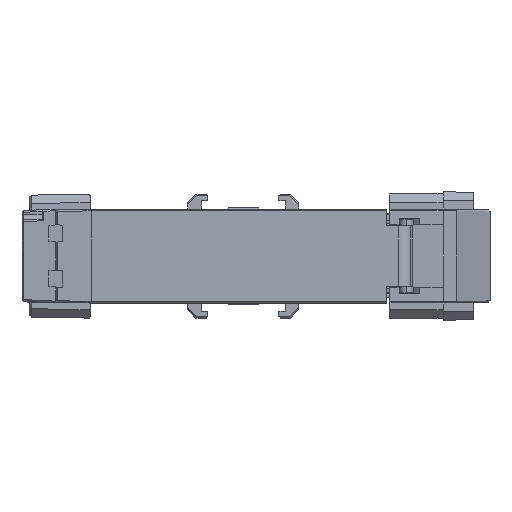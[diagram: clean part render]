
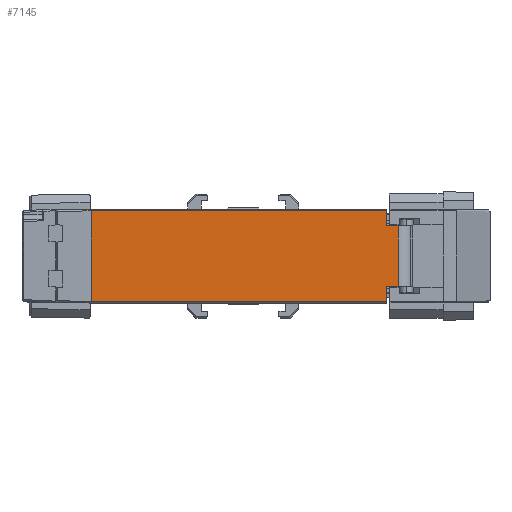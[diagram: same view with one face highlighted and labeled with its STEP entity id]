
A CAD part, left-side view. The second image highlights one B-rep face of the part: STEP entity #7145.
In plain terms, the highlighted planar face has unit normal (-1, 0, 0).
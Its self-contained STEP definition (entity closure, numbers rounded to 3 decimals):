
#4111 = AXIS2_PLACEMENT_3D ( 'NONE', #4958, #45110, #35448 ) ;
#4958 = CARTESIAN_POINT ( 'NONE',  ( -60., -1., 14. ) ) ;
#5102 = EDGE_CURVE ( 'NONE', #49876, #37263, #56243, .T. ) ;
#7072 = DIRECTION ( 'NONE',  ( 0., -1., 0. ) ) ;
#7145 = ADVANCED_FACE ( 'NONE', ( #49503 ), #53342, .F. ) ;
#7262 = CARTESIAN_POINT ( 'NONE',  ( -60., -1., 14. ) ) ;
#10318 = LINE ( 'NONE', #40554, #42674 ) ;
#10398 = CARTESIAN_POINT ( 'NONE',  ( -60., 87., -13.5 ) ) ;
#10403 = ORIENTED_EDGE ( 'NONE', *, *, #21376, .T. ) ;
#10594 = LINE ( 'NONE', #46657, #25070 ) ;
#10781 = EDGE_CURVE ( 'NONE', #49876, #45603, #10318, .T. ) ;
#11993 = VERTEX_POINT ( 'NONE', #54637 ) ;
#13158 = CARTESIAN_POINT ( 'NONE',  ( -60., -4.705, -9. ) ) ;
#16180 = EDGE_LOOP ( 'NONE', ( #10403, #19319, #21005, #20013, #23026, #42547, #25421, #27293 ) ) ;
#17695 = DIRECTION ( 'NONE',  ( 0., 0., -1. ) ) ;
#18003 = CARTESIAN_POINT ( 'NONE',  ( -60., 87., 13.5 ) ) ;
#19319 = ORIENTED_EDGE ( 'NONE', *, *, #33986, .T. ) ;
#20013 = ORIENTED_EDGE ( 'NONE', *, *, #40387, .F. ) ;
#21005 = ORIENTED_EDGE ( 'NONE', *, *, #44488, .F. ) ;
#21267 = VERTEX_POINT ( 'NONE', #55305 ) ;
#21376 = EDGE_CURVE ( 'NONE', #45603, #32072, #34461, .T. ) ;
#23026 = ORIENTED_EDGE ( 'NONE', *, *, #49792, .F. ) ;
#24322 = VECTOR ( 'NONE', #17695, 1000. ) ;
#24456 = EDGE_CURVE ( 'NONE', #21267, #37263, #46378, .T. ) ;
#25070 = VECTOR ( 'NONE', #7072, 1000. ) ;
#25088 = VERTEX_POINT ( 'NONE', #43731 ) ;
#25421 = ORIENTED_EDGE ( 'NONE', *, *, #5102, .F. ) ;
#26021 = VERTEX_POINT ( 'NONE', #31181 ) ;
#27293 = ORIENTED_EDGE ( 'NONE', *, *, #10781, .T. ) ;
#30309 = CARTESIAN_POINT ( 'NONE',  ( -60., -1., 13.5 ) ) ;
#30634 = CARTESIAN_POINT ( 'NONE',  ( -60., 87., 14. ) ) ;
#31181 = CARTESIAN_POINT ( 'NONE',  ( -60., -1., -9. ) ) ;
#32072 = VERTEX_POINT ( 'NONE', #10398 ) ;
#32343 = DIRECTION ( 'NONE',  ( 0., 1., 0. ) ) ;
#33854 = LINE ( 'NONE', #34141, #36305 ) ;
#33986 = EDGE_CURVE ( 'NONE', #32072, #11993, #10594, .T. ) ;
#34141 = CARTESIAN_POINT ( 'NONE',  ( -60., -4.705, 9. ) ) ;
#34461 = LINE ( 'NONE', #30634, #56188 ) ;
#35448 = DIRECTION ( 'NONE',  ( 0., 0., -1. ) ) ;
#36305 = VECTOR ( 'NONE', #37971, 1000. ) ;
#37263 = VERTEX_POINT ( 'NONE', #42745 ) ;
#37971 = DIRECTION ( 'NONE',  ( 0., 0., -1. ) ) ;
#39541 = VECTOR ( 'NONE', #42760, 1000. ) ;
#40387 = EDGE_CURVE ( 'NONE', #25088, #26021, #52777, .T. ) ;
#40554 = CARTESIAN_POINT ( 'NONE',  ( -60., 87., 13.5 ) ) ;
#41995 = CARTESIAN_POINT ( 'NONE',  ( -60., -4.705, 9. ) ) ;
#42547 = ORIENTED_EDGE ( 'NONE', *, *, #24456, .T. ) ;
#42674 = VECTOR ( 'NONE', #32343, 1000. ) ;
#42745 = CARTESIAN_POINT ( 'NONE',  ( -60., -1., 9. ) ) ;
#42760 = DIRECTION ( 'NONE',  ( 0., 0., -1. ) ) ;
#43731 = CARTESIAN_POINT ( 'NONE',  ( -60., -4.705, -9. ) ) ;
#44488 = EDGE_CURVE ( 'NONE', #26021, #11993, #44975, .T. ) ;
#44975 = LINE ( 'NONE', #49668, #24322 ) ;
#45110 = DIRECTION ( 'NONE',  ( 1., 0., 0. ) ) ;
#45603 = VERTEX_POINT ( 'NONE', #18003 ) ;
#46047 = VECTOR ( 'NONE', #57757, 1000. ) ;
#46378 = LINE ( 'NONE', #41995, #54190 ) ;
#46657 = CARTESIAN_POINT ( 'NONE',  ( -60., -1., -13.5 ) ) ;
#46956 = DIRECTION ( 'NONE',  ( 0., 1., 0. ) ) ;
#49503 = FACE_OUTER_BOUND ( 'NONE', #16180, .T. ) ;
#49668 = CARTESIAN_POINT ( 'NONE',  ( -60., -1., 14. ) ) ;
#49792 = EDGE_CURVE ( 'NONE', #21267, #25088, #33854, .T. ) ;
#49876 = VERTEX_POINT ( 'NONE', #30309 ) ;
#52777 = LINE ( 'NONE', #13158, #46047 ) ;
#53202 = DIRECTION ( 'NONE',  ( 0., 0., -1. ) ) ;
#53342 = PLANE ( 'NONE',  #4111 ) ;
#54190 = VECTOR ( 'NONE', #46956, 1000. ) ;
#54637 = CARTESIAN_POINT ( 'NONE',  ( -60., -1., -13.5 ) ) ;
#55305 = CARTESIAN_POINT ( 'NONE',  ( -60., -4.705, 9. ) ) ;
#56188 = VECTOR ( 'NONE', #53202, 1000. ) ;
#56243 = LINE ( 'NONE', #7262, #39541 ) ;
#57757 = DIRECTION ( 'NONE',  ( 0., 1., 0. ) ) ;
